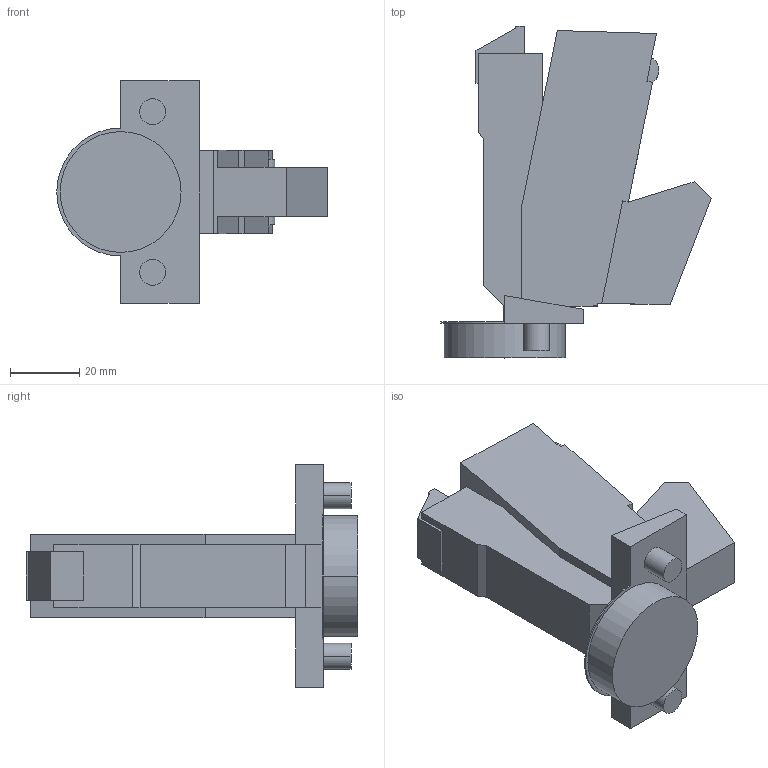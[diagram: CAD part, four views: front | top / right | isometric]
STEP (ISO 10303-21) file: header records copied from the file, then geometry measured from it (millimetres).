
FILE_DESCRIPTION (( 'STEP AP214' ), '1' );
FILE_NAME ('Scharnier T Impresso 160° MB_BB, K95.step', '2010-12-13T10:13:10', ( 'grass' ), ( '' ), 'SwSTEP 2.0', 'SolidWorks 2010', '' );
FILE_SCHEMA (( 'AUTOMOTIVE_DESIGN' ));
Length unit declared in the file: millimetre
Products named in the file (1): Scharnier T Impresso 160° MB_BB, K95
Bounding box: 78.32 x 96.09 x 64.5 mm (x, y, z)
Volume: 103641.7 mm3; surface area: 21043 mm2
Topology: 1 solids, 4 shells, 73 faces, 182 edges, 120 vertices
Faces by surface type: plane 59, cylinder 14
Entity records: 2179 total; most frequent: CARTESIAN_POINT 379, ORIENTED_EDGE 364, DIRECTION 356, EDGE_CURVE 182, VECTOR 154, LINE 154, VERTEX_POINT 120, AXIS2_PLACEMENT_3D 101
